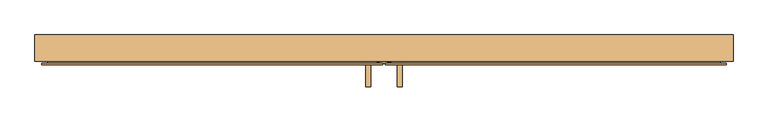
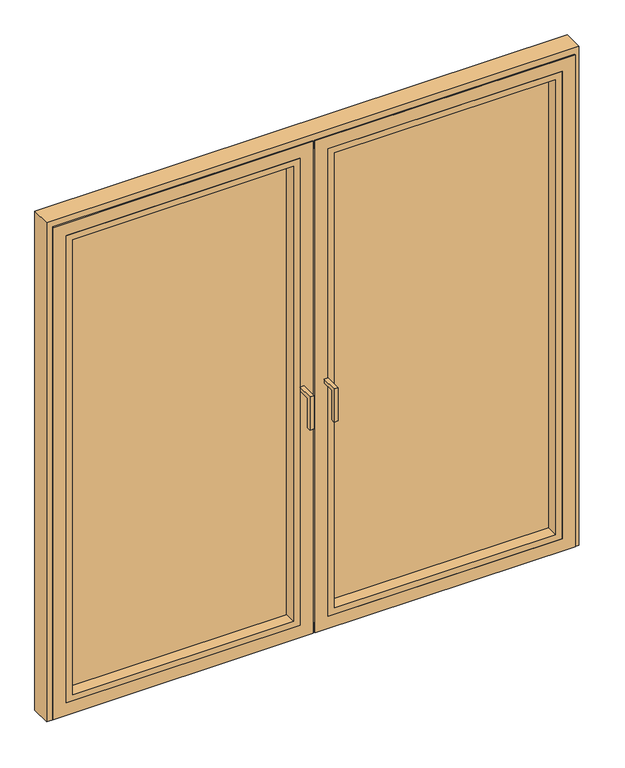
"""IFC4 building model written with IfcOpenShell, lengths in millimetres: door geometry, Reynaers_Masterline 8_Window Door_Inward Opening_Double Vent : Reynaers_Masterline 8_Window Door_Inward Opening_Double Vent."""

from ifc_helpers import new_model, si_unit, frame, origin, origin_with_axes, place, context, project, spatial, polyline, outline, extrude, faceted_brep, source, transform, mapped, element, save


def door_cea9ec58(model_context):
    return source(origin(), model_context, "Body", "SolidModel", [
        extrude(outline(polyline([(-7.0, 1008.0), (-57.0, 1008.0), (-57.0, 888.0), (-72.0, 888.0), (-72.0, 1023.0), (-7.0, 1023.0), (-7.0, 1008.0)])), frame((38.5, 0.0, 0.0), z_axis=(1.0, 0.0, 0.0), x_axis=(0.0, 1.0, 0.0)), (0.0, 0.0, 1.0), 15.0),
        extrude(outline(polyline([(-7.0, 1023.0), (-7.0, 1008.0), (-57.0, 1008.0), (-57.0, 888.0), (-72.0, 888.0), (-72.0, 1023.0), (-7.0, 1023.0)])), frame((-53.5, 0.0, 0.0), z_axis=(1.0, 0.0, 0.0), x_axis=(0.0, 1.0, 0.0)), (0.0, 0.0, 1.0), 15.0),
        extrude(outline(polyline([(967.0, 80.0), (967.0, 73.3161312), (-967.0, 73.3161312), (-967.0, 80.0), (967.0, 80.0)])), frame((0.0, 0.0, 9.9999982), z_axis=(0.0, 0.0, 1.0), x_axis=(1.0, 0.0, 0.0)), (0.0, 0.0, 1.0), 38.0),
        extrude(outline(polyline([(967.0, 66.7987266), (967.0, 57.7184295), (-967.0, 57.7184295), (-967.0, 66.7987266), (967.0, 66.7987266)])), origin_with_axes(), (0.0, 0.0, 1.0), 25.9999982),
        extrude(outline(polyline([(967.0, 24.9284889), (967.0, 0.9284886), (-967.0, 0.9284886), (-967.0, 24.9284889), (967.0, 24.9284889)])), frame((0.0, 0.0, 4.3954497), z_axis=(0.0, 0.0, 1.0), x_axis=(1.0, 0.0, 0.0)), (0.0, 0.0, 1.0), 21.6045485),
        extrude(outline(polyline([(-36.5, 80.0), (36.5000018, 80.0), (36.5000018, 75.2), (9.5000018, 75.2), (9.5000018, -3.0), (-11.7999982, -3.0), (-11.7999982, 75.2), (-36.5, 75.2), (-36.5, 80.0)])), frame((0.0, 0.0, 48.0), z_axis=(0.0, 0.0, 1.0), x_axis=(1.0, 0.0, 0.0)), (0.0, 0.0, 1.0), 1919.0),
        extrude(outline(polyline([(1950.0, 53.5), (58.0, 53.5), (58.0, 950.0), (1950.0, 950.0), (1950.0, 53.5)]), holes=[polyline([(1925.0, 925.0), (83.0, 925.0), (83.0, 78.5), (1925.0, 78.5), (1925.0, 925.0)])]), frame((0.0, -7.0, 0.0), z_axis=(0.0, 1.0, 0.0), x_axis=(0.0, 0.0, 1.0)), (0.0, 0.0, 1.0), 46.0),
        faceted_brep([(43.5, 80.0, 48.0), (43.5, 70.0, 48.0), (43.5, 70.0, 1960.0), (43.5, 80.0, 1960.0), (80.5, 72.0, 85.0), (80.5, 80.0, 85.0), (80.5, 80.0, 1923.0), (80.5, 72.0, 1923.0), (960.0, 70.0, 1960.0), (960.0, 80.0, 1960.0), (923.0, 80.0, 1923.0), (923.0, 72.0, 1923.0), (960.0, 70.0, 48.0), (960.0, 80.0, 48.0), (923.0, 80.0, 85.0), (923.0, 72.0, 85.0), (3.5, -7.0, 8.0), (1000.0, -7.0, 8.0), (1000.0, -7.0, 2000.0), (3.5, -7.0, 2000.0), (53.5, -7.0, 1950.0), (950.0, -7.0, 1950.0), (950.0, -7.0, 58.0), (53.5, -7.0, 58.0), (53.5, 72.0, 1950.0), (950.0, 72.0, 1950.0), (950.0, 72.0, 58.0), (53.5, 72.0, 58.0), (21.5, 70.0, 1982.0), (21.5, -3.0, 1982.0), (982.0, -3.0, 1982.0), (982.0, 70.0, 1982.0), (3.5, -3.0, 2000.0), (1000.0, -3.0, 2000.0), (982.0, -3.0, 26.0), (982.0, 70.0, 26.0), (1000.0, -3.0, 8.0), (21.5, -3.0, 26.0), (21.5, 70.0, 26.0), (3.5, -3.0, 8.0)], [[[0, 1, 2, 3]], [[4, 5, 6, 7]], [[3, 2, 8, 9]], [[7, 6, 10, 11]], [[9, 8, 12, 13]], [[11, 10, 14, 15]], [[3, 9, 13, 0], [5, 14, 10, 6]], [[13, 12, 1, 0]], [[16, 17, 18, 19], [20, 21, 22, 23]], [[15, 14, 5, 4]], [[20, 24, 25, 21]], [[21, 25, 26, 22]], [[22, 26, 27, 23]], [[23, 27, 24, 20]], [[24, 27, 26, 25], [11, 15, 4, 7]], [[28, 29, 30, 31]], [[32, 19, 18, 33]], [[31, 30, 34, 35]], [[33, 18, 17, 36]], [[35, 34, 37, 38]], [[36, 17, 16, 39]], [[31, 35, 38, 28], [2, 1, 12, 8]], [[38, 37, 29, 28]], [[33, 36, 39, 32], [29, 37, 34, 30]], [[39, 16, 19, 32]]]),
        extrude(outline(polyline([(1950.0, -950.0), (58.0, -950.0), (58.0, -53.5), (1950.0, -53.5), (1950.0, -950.0)]), holes=[polyline([(1925.0, -78.5), (83.0, -78.5), (83.0, -925.0), (1925.0, -925.0), (1925.0, -78.5)])]), frame((0.0, -7.0, 0.0), z_axis=(0.0, 1.0, 0.0), x_axis=(0.0, 0.0, 1.0)), (0.0, 0.0, 1.0), 46.0),
        faceted_brep([(966.9999975, 80.0, 0.0), (1019.9999975, 80.0, 0.0), (1019.9999975, 3.0, 0.0), (993.9999975, 3.0, 0.0), (993.9999975, 76.0, 0.0), (966.9999975, 76.0, 0.0), (966.9999975, 80.0, 1966.9999975), (-967.0, 80.0, 1966.9999975), (-967.0, 80.0, 0.0), (-1020.0, 80.0, 0.0), (-1020.0, 80.0, 2019.9999975), (1019.9999975, 80.0, 2019.9999975), (1019.9999975, 3.0, 2019.9999975), (-1020.0, 3.0, 2019.9999975), (-1020.0, 3.0, 0.0), (-994.0, 3.0, 0.0), (-994.0, 3.0, 1993.9999975), (993.9999975, 3.0, 1993.9999975), (966.9999975, 76.0, 1966.9999975), (-967.0, 76.0, 1966.9999975), (-967.0, 76.0, 0.0), (-994.0, 76.0, 0.0), (993.9999975, 76.0, 1993.9999975), (-994.0, 76.0, 1993.9999975)], [[[0, 1, 2, 3, 4, 5]], [[1, 0, 6, 7, 8, 9, 10, 11]], [[2, 1, 11, 12]], [[3, 2, 12, 13, 14, 15, 16, 17]], [[0, 5, 18, 6]], [[12, 11, 10, 13]], [[6, 18, 19, 7]], [[8, 20, 21, 15, 14, 9]], [[13, 10, 9, 14]], [[7, 19, 20, 8]], [[22, 17, 16, 23]], [[23, 16, 15, 21]], [[4, 3, 17, 22]], [[5, 4, 22, 23, 21, 20, 19, 18]]]),
        faceted_brep([(-43.5, 70.0, 48.0), (-43.5, 80.0, 48.0), (-43.5, 80.0, 1960.0), (-43.5, 70.0, 1960.0), (-80.5, 80.0, 85.0), (-80.5, 72.0, 85.0), (-80.5, 72.0, 1923.0), (-80.5, 80.0, 1923.0), (-960.0, 80.0, 1960.0), (-960.0, 70.0, 1960.0), (-923.0, 72.0, 1923.0), (-923.0, 80.0, 1923.0), (-960.0, 80.0, 48.0), (-960.0, 70.0, 48.0), (-923.0, 72.0, 85.0), (-923.0, 80.0, 85.0), (-3.4999982, -7.0, 2000.0000018), (-1000.0000018, -7.0, 2000.0000018), (-1000.0000018, -7.0, 7.9999982), (-3.4999982, -7.0, 7.9999982), (-53.4999982, -7.0, 57.9999982), (-950.0000018, -7.0, 57.9999982), (-950.0000018, -7.0, 1950.0000018), (-53.4999982, -7.0, 1950.0000018), (-53.4999982, 72.0, 1950.0000018), (-950.0000018, 72.0, 1950.0000018), (-950.0000018, 72.0, 57.9999982), (-53.4999982, 72.0, 57.9999982), (-21.4999982, -3.0, 1982.0000018), (-21.4999982, 70.0, 1982.0000018), (-982.0000018, 70.0, 1982.0000018), (-982.0000018, -3.0, 1982.0000018), (-3.4999982, -3.0, 2000.0000018), (-1000.0000018, -3.0, 2000.0000018), (-982.0000018, 70.0, 25.9999982), (-982.0000018, -3.0, 25.9999982), (-1000.0000018, -3.0, 7.9999982), (-21.4999982, 70.0, 25.9999982), (-21.4999982, -3.0, 25.9999982), (-3.4999982, -3.0, 7.9999982)], [[[0, 1, 2, 3]], [[4, 5, 6, 7]], [[3, 2, 8, 9]], [[7, 6, 10, 11]], [[9, 8, 12, 13]], [[11, 10, 14, 15]], [[1, 12, 8, 2], [7, 11, 15, 4]], [[13, 12, 1, 0]], [[16, 17, 18, 19], [20, 21, 22, 23]], [[15, 14, 5, 4]], [[24, 23, 22, 25]], [[25, 22, 21, 26]], [[26, 21, 20, 27]], [[27, 20, 23, 24]], [[25, 26, 27, 24], [6, 5, 14, 10]], [[28, 29, 30, 31]], [[16, 32, 33, 17]], [[31, 30, 34, 35]], [[17, 33, 36, 18]], [[35, 34, 37, 38]], [[18, 36, 39, 19]], [[29, 37, 34, 30], [9, 13, 0, 3]], [[38, 37, 29, 28]], [[32, 39, 36, 33], [31, 35, 38, 28]], [[19, 39, 32, 16]]]),
        extrude(outline(polyline([(942.0, 45.0), (61.5, 45.0), (61.5, 72.0), (942.0, 72.0), (942.0, 45.0)])), frame((0.0, 0.0, 66.0), z_axis=(0.0, 0.0, 1.0), x_axis=(1.0, 0.0, 0.0)), (0.0, 0.0, 1.0), 1876.0),
        extrude(outline(polyline([(-61.5, 45.0), (-942.0, 45.0), (-942.0, 72.0), (-61.5, 72.0), (-61.5, 45.0)])), frame((0.0, 0.0, 66.0), z_axis=(0.0, 0.0, 1.0), x_axis=(1.0, 0.0, 0.0)), (0.0, 0.0, 1.0), 1876.0),
    ])


if __name__ == "__main__":
    model = new_model("IFC4")
    model_context = context("Model", 3, world=origin())
    ifc_project = project(units=[si_unit("LENGTHUNIT", "METRE", prefix="MILLI")], contexts=[model_context])
    site = spatial("IfcSite", under=ifc_project)
    building = spatial("IfcBuilding", under=site)
    placement = place(None, origin())
    door_shape = door_cea9ec58(model_context)
    element("IfcDoor", 1, ObjectType="Reynaers_Masterline 8_Window Door_Inward Opening_Double Vent : Reynaers_Masterline 8_Window Door_Inward Opening_Double Vent", at=placement, inside=building, context=model_context, shape_type="MappedRepresentation", body=[
        mapped(door_shape, transform((0.0, 0.0, 0.0), x_axis=(1.0, 0.0, 0.0), y_axis=(0.0, 1.0, 0.0), z_axis=(0.0, 0.0, 1.0))),
    ])
    save(model, "model.ifc")
